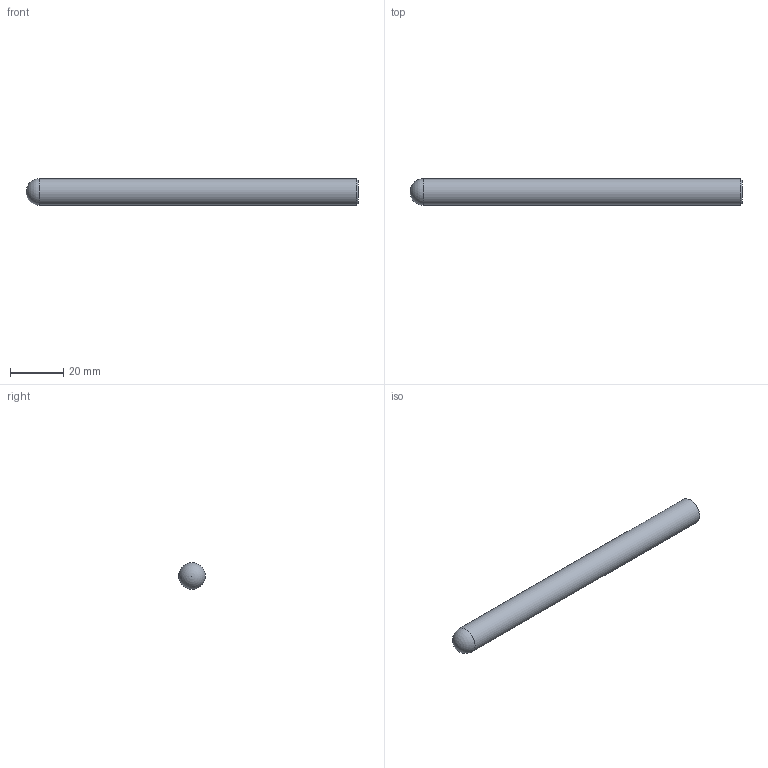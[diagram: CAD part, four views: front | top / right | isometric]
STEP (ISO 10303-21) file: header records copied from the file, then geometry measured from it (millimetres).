
FILE_DESCRIPTION(/* description */ (''),/* implementation_level */ '2;1');
FILE_NAME(/* name */ 'HSXB2100 10125.stp',/* time_stamp */ '2026-08-03T10:11:46+08:00',/* author */ (''),/* organization */ (''),/* preprocessor_version */ 'ST-DEVELOPER v16',/* originating_system */ 'SIEMENS PLM Software NX 10.0',/* authorisation */ '');
FILE_SCHEMA (('CONFIG_CONTROL_DESIGN'));
Length unit declared in the file: millimetre
Products named in the file (1): HSXB2100 10125_dxf
Bounding box: 125 x 10 x 10 mm (x, y, z)
Volume: 9682.8 mm3; surface area: 3996 mm2
Topology: 1 solids, 1 shells, 4 faces, 8 edges, 5 vertices
Faces by surface type: plane 1, sphere 1, cylinder 1, cone 1
Full cylindrical faces by diameter (mm): 10 x1
Entity records: 158 total; most frequent: DIRECTION 16, CARTESIAN_POINT 11, AXIS2_PLACEMENT_3D 8, PERSON_AND_ORGANIZATION 7, ORGANIZATION 7, EDGE_LOOP 6, ORIENTED_EDGE 6, DATE_AND_TIME 5
